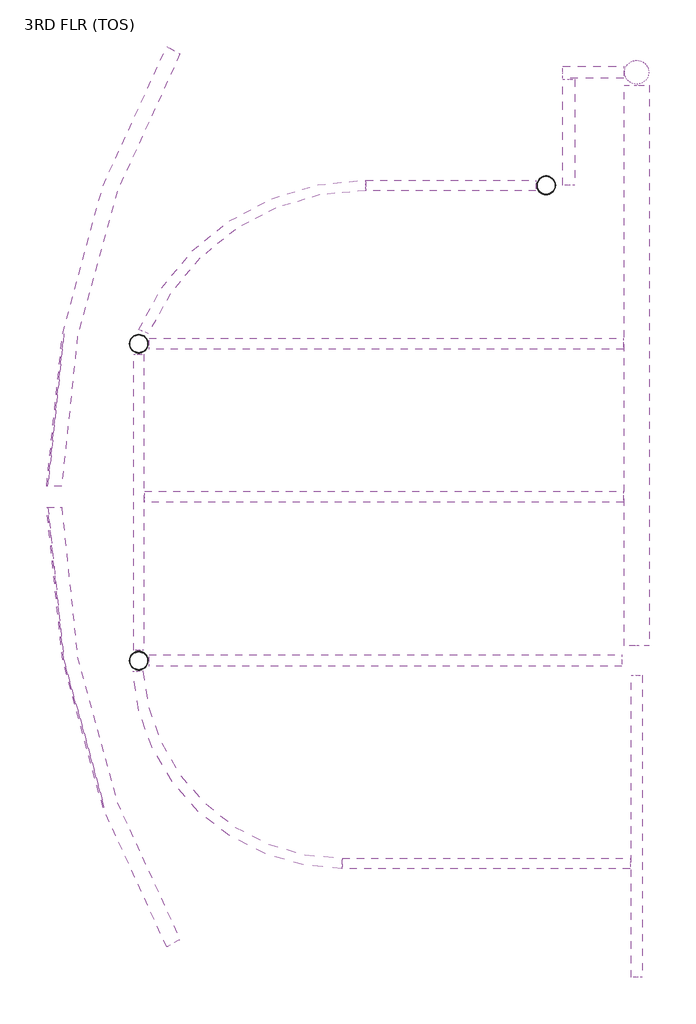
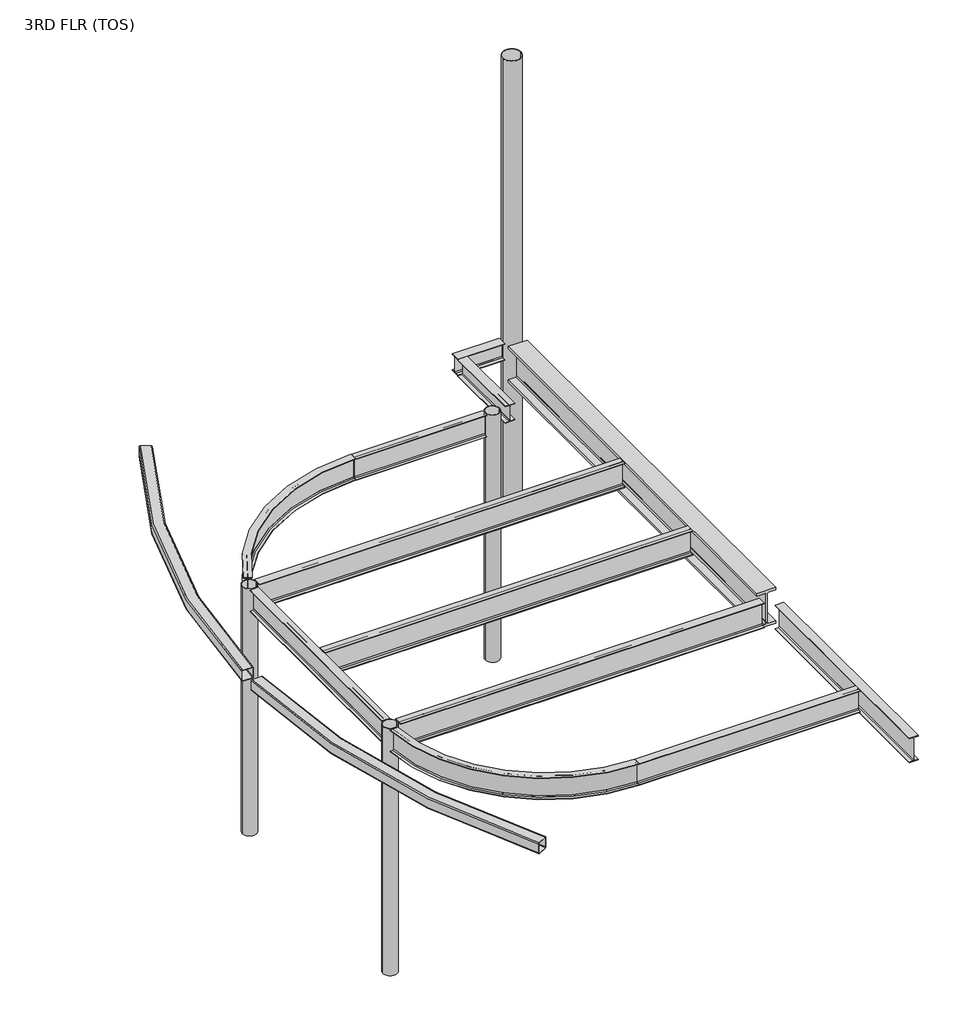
# One storey: 14 beams, 4 columns.
"""IFC4 building model written with IfcOpenShell, lengths in millimetres."""

from ifc_helpers import new_model, si_unit, point, frame, frame_2d, origin, place, context, project, spatial, circle_curve, trimmed, segment, composite_curve, outline, extrude, transform, mapped, element, save
from components import hss_hollow_structural_section_hss8x8x_375_3f7a212a, hss_hollow_structural_section_hss8x8x_375_31d8bada, w_wide_flange_w12x26_7fa1df94, w_wide_flange_w12x26_5cfc586e, w_wide_flange_w16x26_e7c4c9f7, w_wide_flange_w16x26_9fbcf036, w_wide_flange_w16x26_8902d683, w_wide_flange_w16x26_d8ea63e7, w_wide_flange_w16x26_e3668a51, w_wide_flange_w18x35_15e55470, w_wide_flange_w18x35_87d37092, w_wide_flange_w18x35_9e390736, w_wide_flange_w18x35_de695320, w_wide_flange_w24x229_eebb78a0, hss_round_hollow_structural_section_column_hss10x0_500_8cda41c0, hss_round_hollow_structural_section_column_hss12_750x0_500_ca34f2c9

model = new_model("IFC4")

# Units and contexts
model_context = context("Model", 3, world=origin())
ifc_project = project(units=[si_unit("LENGTHUNIT", "METRE", prefix="MILLI")], contexts=[model_context])

# Site, building, storey
site = spatial("IfcSite", under=ifc_project)
building = spatial("IfcBuilding", under=site)
storey = spatial("IfcBuildingStorey", under=building, Name="3RD FLR (TOS)", Elevation=10541.0)

# Beams
placement = place(None, origin())
hss_hollow_structural_section_hss8x8x_375_shape = hss_hollow_structural_section_hss8x8x_375_3f7a212a(model_context)
element("IfcBeam", 1, ObjectType="HSS-Hollow Structural Section : HSS8X8X.375", at=placement, inside=storey, context=model_context, shape_type="MappedRepresentation", body=[
    mapped(hss_hollow_structural_section_hss8x8x_375_shape, transform((2997.2, 41751.0130758, 15011.4), x_axis=(-0.5014171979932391, 0.8652056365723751, 0.0), y_axis=(-0.8652056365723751, -0.5014171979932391, 0.0), z_axis=(0.0, 0.0, 1.0))),
])
hss_hollow_structural_section_hss8x8x_375_2_shape = hss_hollow_structural_section_hss8x8x_375_31d8bada(model_context)
element("IfcBeam", 2, ObjectType="HSS-Hollow Structural Section : HSS8X8X.375", at=placement, inside=storey, context=model_context, shape_type="MappedRepresentation", body=[
    mapped(hss_hollow_structural_section_hss8x8x_375_2_shape, transform((2997.2, 54102.0, 15011.4), x_axis=(-0.5014171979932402, -0.8652056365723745, 0.0), y_axis=(0.8652056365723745, -0.5014171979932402, 0.0), z_axis=(0.0, 0.0, 1.0))),
])
w_wide_flange_w12x26_shape = w_wide_flange_w12x26_7fa1df94(model_context)
element("IfcBeam", 3, ObjectType="W-Wide Flange : W12X26", at=placement, inside=storey, context=model_context, shape_type="MappedRepresentation", body=[
    mapped(w_wide_flange_w12x26_shape, transform((8686.8, 53644.8, 14957.821875), x_axis=(-1.0, 0.0, 0.0), y_axis=(0.0, -1.0, 0.0), z_axis=(0.0, 0.0, 1.0))),
])
w_wide_flange_w12x26_2_shape = w_wide_flange_w12x26_5cfc586e(model_context)
element("IfcBeam", 4, ObjectType="W-Wide Flange : W12X26", at=placement, inside=storey, context=model_context, shape_type="MappedRepresentation", body=[
    mapped(w_wide_flange_w12x26_2_shape, transform((8229.6, 52882.8, 14957.821875), x_axis=(0.0, -1.0, 0.0), y_axis=(1.0, 0.0, 0.0), z_axis=(0.0, 0.0, 1.0))),
])
w_wide_flange_w16x26_shape = w_wide_flange_w16x26_e7c4c9f7(model_context)
element("IfcBeam", 5, ObjectType="W-Wide Flange : W16X26", at=placement, inside=storey, context=model_context, shape_type="MappedRepresentation", body=[
    mapped(w_wide_flange_w16x26_shape, transform((2438.4, 47853.6, 14913.7191406), x_axis=(0.0, -1.0, 0.0), y_axis=(1.0, 0.0, 0.0), z_axis=(0.0, 0.0, 1.0))),
])
w_wide_flange_w16x26_2_shape = w_wide_flange_w16x26_9fbcf036(model_context)
element("IfcBeam", 6, ObjectType="W-Wide Flange : W16X26", at=placement, inside=storey, context=model_context, shape_type="MappedRepresentation", body=[
    mapped(w_wide_flange_w16x26_2_shape, transform((5181.6, 42989.5, 14913.7191406), x_axis=(-1.0, 0.0, 0.0), y_axis=(0.0, -1.0, 0.0), z_axis=(0.0, 0.0, 1.0))),
])
w_wide_flange_w16x26_3_shape = w_wide_flange_w16x26_8902d683(model_context)
element("IfcBeam", 7, ObjectType="W-Wide Flange : W16X26", at=placement, inside=storey, context=model_context, shape_type="MappedRepresentation", body=[
    mapped(w_wide_flange_w16x26_3_shape, transform((5486.4, 52120.8, 14913.7191406), x_axis=(-1.0, 0.0, 0.0), y_axis=(0.0, -1.0, 0.0), z_axis=(0.0, 0.0, 1.0))),
])
w_wide_flange_w16x26_4_shape = w_wide_flange_w16x26_d8ea63e7(model_context)
element("IfcBeam", 8, ObjectType="W-Wide Flange : W16X26", at=placement, inside=storey, context=model_context, shape_type="MappedRepresentation", body=[
    mapped(w_wide_flange_w16x26_4_shape, transform((6705.6, 52120.8, 14913.7191406), x_axis=(-1.0, 0.0, 0.0), y_axis=(0.0, -1.0, 0.0), z_axis=(0.0, 0.0, 1.0))),
])
w_wide_flange_w16x26_5_shape = w_wide_flange_w16x26_e3668a51(model_context)
element("IfcBeam", 9, ObjectType="W-Wide Flange : W16X26", at=placement, inside=storey, context=model_context, shape_type="MappedRepresentation", body=[
    mapped(w_wide_flange_w16x26_5_shape, transform((7162.8, 42989.5, 14913.7191406), x_axis=(-1.0, 0.0, 0.0), y_axis=(0.0, -1.0, 0.0), z_axis=(0.0, 0.0, 1.0))),
])
w_wide_flange_w18x35_shape = w_wide_flange_w18x35_15e55470(model_context)
element("IfcBeam", 10, ObjectType="W-Wide Flange : W18X35", at=placement, inside=storey, context=model_context, shape_type="MappedRepresentation", body=[
    mapped(w_wide_flange_w18x35_shape, transform((5791.2, 47926.5065379, 14888.21), x_axis=(1.0, 0.0, 0.0), y_axis=(0.0, 1.0, 0.0), z_axis=(0.0, 0.0, 1.0))),
])
w_wide_flange_w18x35_2_shape = w_wide_flange_w18x35_87d37092(model_context)
element("IfcBeam", 11, ObjectType="W-Wide Flange : W18X35", at=placement, inside=storey, context=model_context, shape_type="MappedRepresentation", body=[
    mapped(w_wide_flange_w18x35_2_shape, transform((5791.2, 49987.2, 14888.21), x_axis=(1.0, 0.0, 0.0), y_axis=(0.0, 1.0, 0.0), z_axis=(0.0, 0.0, 1.0))),
])
w_wide_flange_w18x35_3_shape = w_wide_flange_w18x35_9e390736(model_context)
element("IfcBeam", 12, ObjectType="W-Wide Flange : W18X35", at=placement, inside=storey, context=model_context, shape_type="MappedRepresentation", body=[
    mapped(w_wide_flange_w18x35_3_shape, transform((5781.7662386, 45720.0, 14888.21), x_axis=(-1.0, 0.0, 0.0), y_axis=(0.0, -1.0, 0.0), z_axis=(0.0, 0.0, 1.0))),
])
w_wide_flange_w18x35_4_shape = w_wide_flange_w18x35_de695320(model_context)
element("IfcBeam", 13, ObjectType="W-Wide Flange : W18X35", at=placement, inside=storey, context=model_context, shape_type="MappedRepresentation", body=[
    mapped(w_wide_flange_w18x35_4_shape, transform((9144.0, 43586.532154, 14888.21), x_axis=(0.0, 1.0, 0.0), y_axis=(-1.0, 0.0, 0.0), z_axis=(0.0, 0.0, 1.0))),
])
w_wide_flange_w24x229_shape = w_wide_flange_w24x229_eebb78a0(model_context)
element("IfcBeam", 14, ObjectType="W-Wide Flange : W24X229", at=placement, inside=storey, context=model_context, shape_type="MappedRepresentation", body=[
    mapped(w_wide_flange_w24x229_shape, transform((9144.0, 49676.790023, 14782.8), x_axis=(0.0, -1.0, 0.0), y_axis=(1.0, 0.0, 0.0), z_axis=(0.0, 0.0, 1.0))),
])

# Columns
element("IfcColumn", 15, ObjectType="HSS-Round Hollow Structural Section-Column : HSS10X0.500", at=placement, inside=storey, context=model_context, shape_type="SweptSolid", body=[
    extrude(outline(composite_curve([segment(trimmed(circle_curve(frame_2d((2438.4, 49987.2)), 127.0), [point((2311.4, 49987.2))], [point((2565.4, 49987.2))], False, "CARTESIAN"), True, "CONTINUOUS"), segment(trimmed(circle_curve(frame_2d((2438.4, 49987.2)), 127.0), [point((2565.4, 49987.2))], [point((2311.4, 49987.2))], False, "CARTESIAN"), True, "CONTINUOUS")], self_intersect=False), holes=[composite_curve([segment(trimmed(circle_curve(frame_2d((2438.4, 49987.2)), 115.189), [point((2323.211, 49987.2))], [point((2553.589, 49987.2))], True, "CARTESIAN"), True, "CONTINUOUS"), segment(trimmed(circle_curve(frame_2d((2438.4, 49987.2)), 115.189), [point((2553.589, 49987.2))], [point((2323.211, 49987.2))], True, "CARTESIAN"), True, "CONTINUOUS")], self_intersect=False)]), frame((0.0, 0.0, 10541.0), z_axis=(0.0, 0.0, 1.0), x_axis=(1.0, 0.0, 0.0)), (0.0, 0.0, 1.0), 4572.0),
])
element("IfcColumn", 16, ObjectType="HSS-Round Hollow Structural Section-Column : HSS10X0.500", at=placement, inside=storey, context=model_context, shape_type="SweptSolid", body=[
    extrude(outline(composite_curve([segment(trimmed(circle_curve(frame_2d((2438.4, 45720.0)), 127.0), [point((2311.4, 45720.0))], [point((2565.4, 45720.0))], False, "CARTESIAN"), True, "CONTINUOUS"), segment(trimmed(circle_curve(frame_2d((2438.4, 45720.0)), 127.0), [point((2565.4, 45720.0))], [point((2311.4, 45720.0))], False, "CARTESIAN"), True, "CONTINUOUS")], self_intersect=False), holes=[composite_curve([segment(trimmed(circle_curve(frame_2d((2438.4, 45720.0)), 115.189), [point((2323.211, 45720.0))], [point((2553.589, 45720.0))], True, "CARTESIAN"), True, "CONTINUOUS"), segment(trimmed(circle_curve(frame_2d((2438.4, 45720.0)), 115.189), [point((2553.589, 45720.0))], [point((2323.211, 45720.0))], True, "CARTESIAN"), True, "CONTINUOUS")], self_intersect=False)]), frame((0.0, 0.0, 10541.0), z_axis=(0.0, 0.0, 1.0), x_axis=(1.0, 0.0, 0.0)), (0.0, 0.0, 1.0), 4572.0),
])
hss_round_hollow_structural_section_column_hss10x0_500_shape = hss_round_hollow_structural_section_column_hss10x0_500_8cda41c0(model_context)
element("IfcColumn", 17, ObjectType="HSS-Round Hollow Structural Section-Column : HSS10X0.500", at=placement, inside=storey, context=model_context, shape_type="MappedRepresentation", body=[
    mapped(hss_round_hollow_structural_section_column_hss10x0_500_shape, transform((7924.8, 52120.8, 0.0), x_axis=(1.0, 0.0, 0.0), y_axis=(0.0, 1.0, 0.0), z_axis=(0.0, 0.0, 1.0))),
])
hss_round_hollow_structural_section_column_hss12_750x0_500_shape = hss_round_hollow_structural_section_column_hss12_750x0_500_ca34f2c9(model_context)
element("IfcColumn", 18, ObjectType="HSS-Round Hollow Structural Section-Column : HSS12.750X0.500", at=placement, inside=storey, context=model_context, shape_type="MappedRepresentation", body=[
    mapped(hss_round_hollow_structural_section_column_hss12_750x0_500_shape, transform((9144.0, 53644.8, 0.0), x_axis=(1.0, 0.0, 0.0), y_axis=(0.0, 1.0, 0.0), z_axis=(0.0, 0.0, 1.0))),
])

save(model, "model.ifc")
